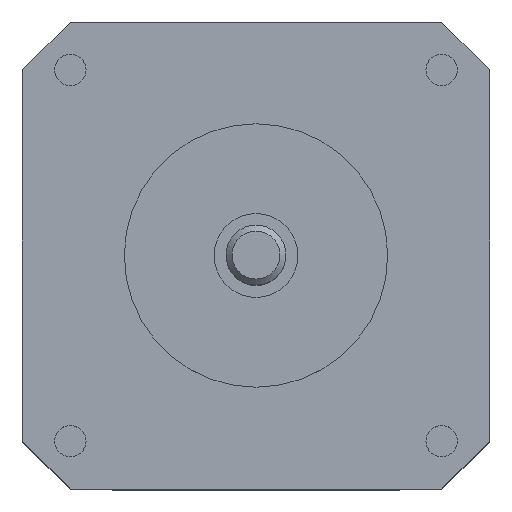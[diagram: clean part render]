
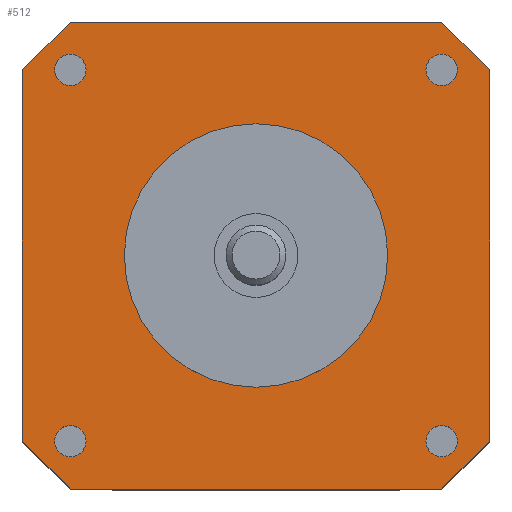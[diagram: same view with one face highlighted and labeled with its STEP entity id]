
A CAD part, top view. The second image highlights one B-rep face of the part: STEP entity #512.
In plain terms, the highlighted planar face has unit normal (0, 0, 1).
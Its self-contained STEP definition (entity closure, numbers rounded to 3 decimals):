
#512=ADVANCED_FACE('',(#1947,#1949,#1951,#1953,#1955,#1957),#1959,.T.);
#1947=FACE_BOUND('',#1948,.T.);
#1948=EDGE_LOOP('',(#3241,#3242,#3243,#3244,#3245,#3246,#3247,#3248));
#1949=FACE_BOUND('',#1950,.T.);
#1950=EDGE_LOOP('',(#3249));
#1951=FACE_BOUND('',#1952,.T.);
#1952=EDGE_LOOP('',(#3250));
#1953=FACE_BOUND('',#1954,.T.);
#1954=EDGE_LOOP('',(#3251));
#1955=FACE_BOUND('',#1956,.T.);
#1956=EDGE_LOOP('',(#3252));
#1957=FACE_BOUND('',#1958,.T.);
#1958=EDGE_LOOP('',(#3253));
#1959=PLANE('',#1960);
#1960=AXIS2_PLACEMENT_3D('',#1961,#1962,#1963);
#1961=CARTESIAN_POINT('',(0.,0.,47.));
#1962=DIRECTION('',(0.,0.,1.));
#1963=DIRECTION('',(1.,0.,0.));
#3241=ORIENTED_EDGE('',*,*,#4019,.F.);
#3242=ORIENTED_EDGE('',*,*,#3958,.T.);
#3243=ORIENTED_EDGE('',*,*,#4020,.F.);
#3244=ORIENTED_EDGE('',*,*,#3938,.T.);
#3245=ORIENTED_EDGE('',*,*,#4018,.F.);
#3246=ORIENTED_EDGE('',*,*,#3999,.T.);
#3247=ORIENTED_EDGE('',*,*,#4021,.F.);
#3248=ORIENTED_EDGE('',*,*,#3978,.T.);
#3249=ORIENTED_EDGE('',*,*,#4022,.T.);
#3250=ORIENTED_EDGE('',*,*,#4023,.T.);
#3251=ORIENTED_EDGE('',*,*,#4024,.F.);
#3252=ORIENTED_EDGE('',*,*,#4025,.T.);
#3253=ORIENTED_EDGE('',*,*,#4026,.T.);
#3938=EDGE_CURVE('',#4384,#4382,#4385,.T.);
#3958=EDGE_CURVE('',#4420,#4418,#4421,.T.);
#3978=EDGE_CURVE('',#4456,#4454,#4457,.T.);
#3999=EDGE_CURVE('',#4494,#4492,#4495,.T.);
#4018=EDGE_CURVE('',#4494,#4382,#4524,.F.);
#4019=EDGE_CURVE('',#4420,#4454,#4525,.F.);
#4020=EDGE_CURVE('',#4384,#4418,#4526,.F.);
#4021=EDGE_CURVE('',#4456,#4492,#4527,.F.);
#4022=EDGE_CURVE('',#4528,#4528,#4529,.F.);
#4023=EDGE_CURVE('',#4530,#4530,#4531,.F.);
#4024=EDGE_CURVE('',#4532,#4532,#4533,.T.);
#4025=EDGE_CURVE('',#4534,#4534,#4535,.F.);
#4026=EDGE_CURVE('',#4536,#4536,#4537,.F.);
#4382=VERTEX_POINT('',#5158);
#4384=VERTEX_POINT('',#5162);
#4385=LINE('',#5163,#5164);
#4418=VERTEX_POINT('',#5235);
#4420=VERTEX_POINT('',#5239);
#4421=LINE('',#5240,#5241);
#4454=VERTEX_POINT('',#5312);
#4456=VERTEX_POINT('',#5316);
#4457=LINE('',#5317,#5318);
#4492=VERTEX_POINT('',#5393);
#4494=VERTEX_POINT('',#5397);
#4495=LINE('',#5398,#5399);
#4524=LINE('',#5472,#5473);
#4525=LINE('',#5475,#5476);
#4526=LINE('',#5478,#5479);
#4527=LINE('',#5481,#5482);
#4528=VERTEX_POINT('',#5484);
#4529=CIRCLE('',#5485,1.311);
#4530=VERTEX_POINT('',#5489);
#4531=CIRCLE('',#5490,1.311);
#4532=VERTEX_POINT('',#5494);
#4533=CIRCLE('',#5495,11.);
#4534=VERTEX_POINT('',#5499);
#4535=CIRCLE('',#5500,1.311);
#4536=VERTEX_POINT('',#5504);
#4537=CIRCLE('',#5505,1.311);
#5158=CARTESIAN_POINT('',(-19.5,-15.5,47.));
#5162=CARTESIAN_POINT('',(-19.5,15.5,47.));
#5163=CARTESIAN_POINT('',(-19.5,15.5,47.));
#5164=VECTOR('',#5165,1.);
#5165=DIRECTION('',(0.,-1.,0.));
#5235=CARTESIAN_POINT('',(-15.5,19.5,47.));
#5239=CARTESIAN_POINT('',(15.5,19.5,47.));
#5240=CARTESIAN_POINT('',(15.5,19.5,47.));
#5241=VECTOR('',#5242,1.);
#5242=DIRECTION('',(-1.,0.,0.));
#5312=CARTESIAN_POINT('',(19.5,15.5,47.));
#5316=CARTESIAN_POINT('',(19.5,-15.5,47.));
#5317=CARTESIAN_POINT('',(19.5,-15.5,47.));
#5318=VECTOR('',#5319,1.);
#5319=DIRECTION('',(0.,1.,0.));
#5393=CARTESIAN_POINT('',(15.5,-19.5,47.));
#5397=CARTESIAN_POINT('',(-15.5,-19.5,47.));
#5398=CARTESIAN_POINT('',(-15.5,-19.5,47.));
#5399=VECTOR('',#5400,1.);
#5400=DIRECTION('',(1.,0.,0.));
#5472=CARTESIAN_POINT('',(-19.5,-15.5,47.));
#5473=VECTOR('',#5474,1.);
#5474=DIRECTION('',(0.707,-0.707,0.));
#5475=CARTESIAN_POINT('',(19.5,15.5,47.));
#5476=VECTOR('',#5477,1.);
#5477=DIRECTION('',(-0.707,0.707,0.));
#5478=CARTESIAN_POINT('',(-15.5,19.5,47.));
#5479=VECTOR('',#5480,1.);
#5480=DIRECTION('',(-0.707,-0.707,0.));
#5481=CARTESIAN_POINT('',(15.5,-19.5,47.));
#5482=VECTOR('',#5483,1.);
#5483=DIRECTION('',(0.707,0.707,0.));
#5484=CARTESIAN_POINT('',(15.5,-14.189,47.));
#5485=AXIS2_PLACEMENT_3D('',#5486,#5487,#5488);
#5486=CARTESIAN_POINT('',(15.5,-15.5,47.));
#5487=DIRECTION('',(0.,0.,1.));
#5488=DIRECTION('',(0.,1.,0.));
#5489=CARTESIAN_POINT('',(-15.5,16.811,47.));
#5490=AXIS2_PLACEMENT_3D('',#5491,#5492,#5493);
#5491=CARTESIAN_POINT('',(-15.5,15.5,47.));
#5492=DIRECTION('',(0.,0.,1.));
#5493=DIRECTION('',(0.,1.,0.));
#5494=CARTESIAN_POINT('',(11.,0.,47.));
#5495=AXIS2_PLACEMENT_3D('',#5496,#5497,#5498);
#5496=CARTESIAN_POINT('',(0.,0.,47.));
#5497=DIRECTION('',(0.,0.,1.));
#5498=DIRECTION('',(1.,0.,0.));
#5499=CARTESIAN_POINT('',(15.5,16.811,47.));
#5500=AXIS2_PLACEMENT_3D('',#5501,#5502,#5503);
#5501=CARTESIAN_POINT('',(15.5,15.5,47.));
#5502=DIRECTION('',(0.,0.,1.));
#5503=DIRECTION('',(0.,1.,0.));
#5504=CARTESIAN_POINT('',(-15.5,-14.189,47.));
#5505=AXIS2_PLACEMENT_3D('',#5506,#5507,#5508);
#5506=CARTESIAN_POINT('',(-15.5,-15.5,47.));
#5507=DIRECTION('',(0.,0.,1.));
#5508=DIRECTION('',(0.,1.,0.));
